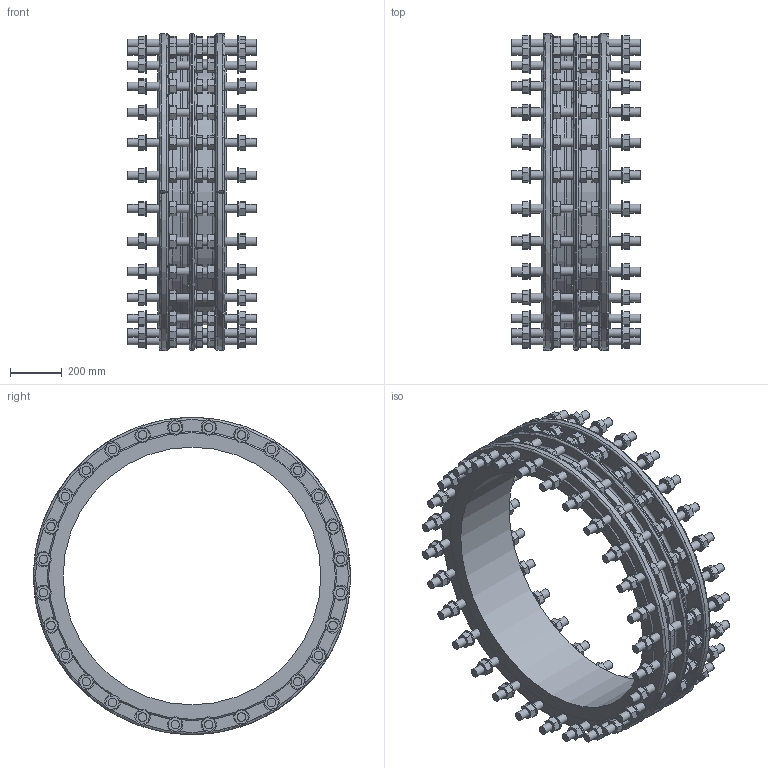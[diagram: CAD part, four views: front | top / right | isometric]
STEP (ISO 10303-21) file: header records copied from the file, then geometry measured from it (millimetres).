
FILE_DESCRIPTION (( 'STEP AP203' ), '1' );
FILE_NAME ('O_265_911_DN1000_0XXXXX01_L=265_REV01.step', '2024-12-12T08:33:02', ( '' ), ( '' ), 'SwSTEP 2.0', 'SolidWorks 2022', '' );
FILE_SCHEMA (( 'CONFIG_CONTROL_DESIGN' ));
Length unit declared in the file: millimetre
Products named in the file (1): O_265_911_DN1000_0XXXXX01_L=265_REV01
Bounding box: 500 x 1229.97 x 1230 mm (x, y, z)
Volume: 70437798.5 mm3; surface area: 5325797.8 mm2
Topology: 1 solids, 1 shells, 1736 faces, 4245 edges, 2801 vertices
Faces by surface type: plane 1403, cylinder 320, torus 10, cone 3
Full cylindrical faces by diameter (mm): 33 x168, 60 x140, 1000 x1, 1030 x2, 1074 x1
Entity records: 48934 total; most frequent: CARTESIAN_POINT 9556, DIRECTION 8091, ORIENTED_EDGE 7422, EDGE_CURVE 3711, AXIS2_PLACEMENT_3D 2723, VECTOR 2645, LINE 2645, VERTEX_POINT 2592
